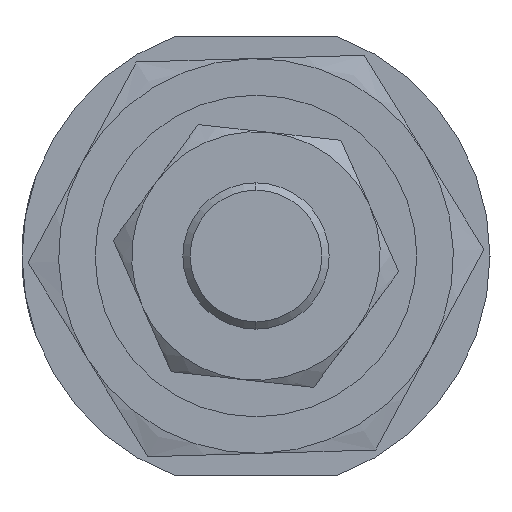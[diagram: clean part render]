
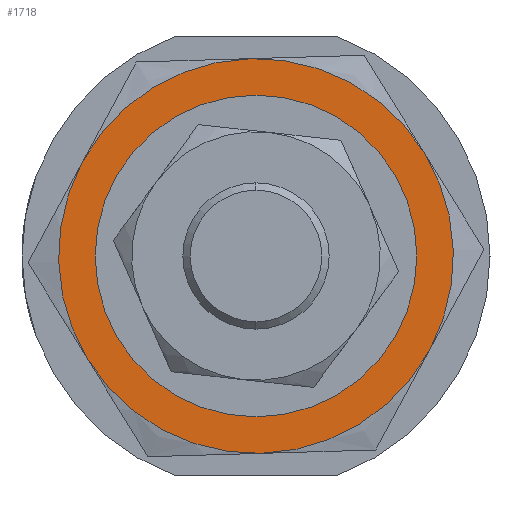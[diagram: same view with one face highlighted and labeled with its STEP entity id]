
A CAD part, left-side view. The second image highlights one B-rep face of the part: STEP entity #1718.
In plain terms, the highlighted planar face has unit normal (-1, 0, 0) as drawn and (0, 0, -1) by its records, which use the part's own axes.
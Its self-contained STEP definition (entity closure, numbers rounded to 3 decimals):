
#17 = VERTEX_POINT ( 'NONE', #1584 ) ;
#58 = DIRECTION ( 'NONE',  ( 1., 0., 0. ) ) ;
#59 = VERTEX_POINT ( 'NONE', #1559 ) ;
#125 = DIRECTION ( 'NONE',  ( 0., 0., 1. ) ) ;
#156 = CARTESIAN_POINT ( 'NONE',  ( -10.25, 0., -5. ) ) ;
#215 = VERTEX_POINT ( 'NONE', #3080 ) ;
#296 = AXIS2_PLACEMENT_3D ( 'NONE', #2524, #1694, #2432 ) ;
#311 = DIRECTION ( 'NONE',  ( 1., 0., 0. ) ) ;
#477 = AXIS2_PLACEMENT_3D ( 'NONE', #1963, #3709, #4382 ) ;
#520 = ORIENTED_EDGE ( 'NONE', *, *, #2152, .F. ) ;
#557 = CIRCLE ( 'NONE', #1255, 13.5 ) ;
#595 = ORIENTED_EDGE ( 'NONE', *, *, #4243, .T. ) ;
#736 = VERTEX_POINT ( 'NONE', #156 ) ;
#837 = CIRCLE ( 'NONE', #1379, 13.5 ) ;
#861 = DIRECTION ( 'NONE',  ( 0., 0., 1. ) ) ;
#998 = CARTESIAN_POINT ( 'NONE',  ( 0., 0., -5. ) ) ;
#1002 = VERTEX_POINT ( 'NONE', #2784 ) ;
#1056 = CIRCLE ( 'NONE', #2164, 13.5 ) ;
#1113 = AXIS2_PLACEMENT_3D ( 'NONE', #998, #2480, #4521 ) ;
#1208 = CARTESIAN_POINT ( 'NONE',  ( -13.5, 0., -5. ) ) ;
#1246 = CARTESIAN_POINT ( 'NONE',  ( 0., 0., -5. ) ) ;
#1255 = AXIS2_PLACEMENT_3D ( 'NONE', #2490, #861, #4456 ) ;
#1284 = AXIS2_PLACEMENT_3D ( 'NONE', #1455, #3861, #3208 ) ;
#1321 = CIRCLE ( 'NONE', #1113, 13.5 ) ;
#1322 = CIRCLE ( 'NONE', #477, 13.5 ) ;
#1357 = ORIENTED_EDGE ( 'NONE', *, *, #1734, .T. ) ;
#1379 = AXIS2_PLACEMENT_3D ( 'NONE', #1813, #4068, #311 ) ;
#1455 = CARTESIAN_POINT ( 'NONE',  ( 0., 0., -5. ) ) ;
#1559 = CARTESIAN_POINT ( 'NONE',  ( -6.75, -11.691, -5. ) ) ;
#1576 = ORIENTED_EDGE ( 'NONE', *, *, #2299, .F. ) ;
#1584 = CARTESIAN_POINT ( 'NONE',  ( 6.75, 11.691, -5. ) ) ;
#1694 = DIRECTION ( 'NONE',  ( 0., 0., 1. ) ) ;
#1708 = VERTEX_POINT ( 'NONE', #3878 ) ;
#1718 = ADVANCED_FACE ( 'NONE', ( #4330, #2433 ), #4102, .F. ) ;
#1734 = EDGE_CURVE ( 'NONE', #215, #736, #1956, .T. ) ;
#1813 = CARTESIAN_POINT ( 'NONE',  ( 0., 0., -5. ) ) ;
#1956 = CIRCLE ( 'NONE', #3977, 10.25 ) ;
#1963 = CARTESIAN_POINT ( 'NONE',  ( 0., 0., -5. ) ) ;
#2106 = CIRCLE ( 'NONE', #1284, 13.5 ) ;
#2152 = EDGE_CURVE ( 'NONE', #59, #1002, #1322, .T. ) ;
#2158 = ORIENTED_EDGE ( 'NONE', *, *, #3199, .F. ) ;
#2164 = AXIS2_PLACEMENT_3D ( 'NONE', #3742, #2298, #58 ) ;
#2298 = DIRECTION ( 'NONE',  ( 0., 0., 1. ) ) ;
#2299 = EDGE_CURVE ( 'NONE', #17, #2535, #557, .T. ) ;
#2383 = CIRCLE ( 'NONE', #296, 10.25 ) ;
#2422 = EDGE_LOOP ( 'NONE', ( #1357, #595 ) ) ;
#2432 = DIRECTION ( 'NONE',  ( 1., 0., 0. ) ) ;
#2433 = FACE_OUTER_BOUND ( 'NONE', #4183, .T. ) ;
#2480 = DIRECTION ( 'NONE',  ( 0., 0., 1. ) ) ;
#2490 = CARTESIAN_POINT ( 'NONE',  ( 0., 0., -5. ) ) ;
#2505 = DIRECTION ( 'NONE',  ( 1., 0., 0. ) ) ;
#2524 = CARTESIAN_POINT ( 'NONE',  ( 0., 0., -5. ) ) ;
#2535 = VERTEX_POINT ( 'NONE', #3597 ) ;
#2688 = EDGE_CURVE ( 'NONE', #3263, #59, #1056, .T. ) ;
#2733 = CARTESIAN_POINT ( 'NONE',  ( 0., 0., -5. ) ) ;
#2784 = CARTESIAN_POINT ( 'NONE',  ( 6.75, -11.691, -5. ) ) ;
#3080 = CARTESIAN_POINT ( 'NONE',  ( 10.25, 0., -5. ) ) ;
#3199 = EDGE_CURVE ( 'NONE', #1002, #1708, #837, .T. ) ;
#3208 = DIRECTION ( 'NONE',  ( 1., 0., 0. ) ) ;
#3263 = VERTEX_POINT ( 'NONE', #1208 ) ;
#3300 = DIRECTION ( 'NONE',  ( 0., 0., 1. ) ) ;
#3502 = AXIS2_PLACEMENT_3D ( 'NONE', #2733, #3300, #2505 ) ;
#3597 = CARTESIAN_POINT ( 'NONE',  ( -6.75, 11.691, -5. ) ) ;
#3709 = DIRECTION ( 'NONE',  ( 0., 0., 1. ) ) ;
#3742 = CARTESIAN_POINT ( 'NONE',  ( 0., 0., -5. ) ) ;
#3755 = ORIENTED_EDGE ( 'NONE', *, *, #2688, .F. ) ;
#3794 = EDGE_CURVE ( 'NONE', #1708, #17, #1321, .T. ) ;
#3810 = DIRECTION ( 'NONE',  ( 1., 0., 0. ) ) ;
#3832 = EDGE_CURVE ( 'NONE', #2535, #3263, #2106, .T. ) ;
#3861 = DIRECTION ( 'NONE',  ( 0., 0., 1. ) ) ;
#3878 = CARTESIAN_POINT ( 'NONE',  ( 13.5, 0., -5. ) ) ;
#3977 = AXIS2_PLACEMENT_3D ( 'NONE', #1246, #125, #3810 ) ;
#4060 = ORIENTED_EDGE ( 'NONE', *, *, #3832, .F. ) ;
#4068 = DIRECTION ( 'NONE',  ( 0., 0., 1. ) ) ;
#4102 = PLANE ( 'NONE',  #3502 ) ;
#4183 = EDGE_LOOP ( 'NONE', ( #4357, #2158, #520, #3755, #4060, #1576 ) ) ;
#4243 = EDGE_CURVE ( 'NONE', #736, #215, #2383, .T. ) ;
#4330 = FACE_BOUND ( 'NONE', #2422, .T. ) ;
#4357 = ORIENTED_EDGE ( 'NONE', *, *, #3794, .F. ) ;
#4382 = DIRECTION ( 'NONE',  ( 1., 0., 0. ) ) ;
#4456 = DIRECTION ( 'NONE',  ( 1., 0., 0. ) ) ;
#4521 = DIRECTION ( 'NONE',  ( 1., 0., 0. ) ) ;
